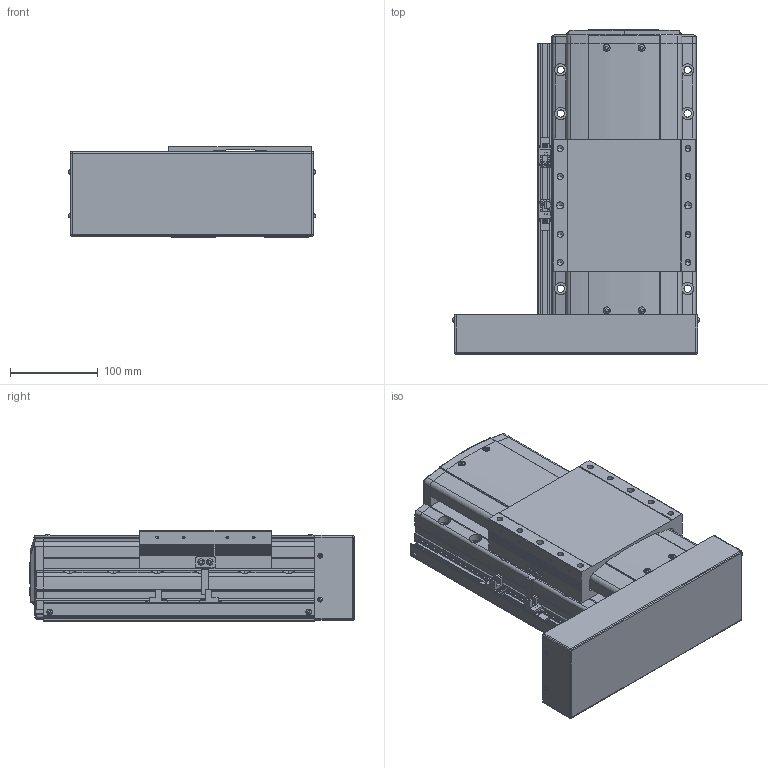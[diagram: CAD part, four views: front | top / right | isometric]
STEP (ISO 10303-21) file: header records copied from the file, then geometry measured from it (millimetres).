
FILE_DESCRIPTION(('STEP AP214'),'1');
FILE_NAME('Z:/Web/3D/PSA165/STP/PSA165-050 (3D)/PSA165ㅁㅁ-050PL+2SL.stp','2014-06-23T06:24:34',(' '),(' '),'Spatial InterOp 3D',' ',' ');
FILE_SCHEMA(('automotive_design'));
Length unit declared in the file: millimetre
Products named in the file (37): 스크루 : Round - M4.0 x 12.0; RRCV-PA160; BASE; 스크루 : Round - M4.0 x 10.0; RN15; Screw 20; SLIDE; FRCV; MTPL; 스크루 : Round - M3.0 x 6.0; M3.0 x 6.0; SRL-16x17-360L; SGD-SAN150; EE-SX674; SBK-SX674-352; BHCS M4.0 x 10.0
Bounding box: 281.93 x 370.8 x 104 mm (x, y, z)
Volume: 5954417.6 mm3; surface area: 541308.5 mm2
Topology: 37 solids, 37 shells, 2255 faces, 6037 edges, 3886 vertices
Faces by surface type: plane 1332, cylinder 643, cone 179, sphere 60, bspline 25, torus 16
Entity records: 91487 total; most frequent: CARTESIAN_POINT 15787, DIRECTION 12021, ORIENTED_EDGE 11850, EDGE_CURVE 5925, LINE 4073, VECTOR 4073, AXIS2_PLACEMENT_3D 3974, VERTEX_POINT 3886
